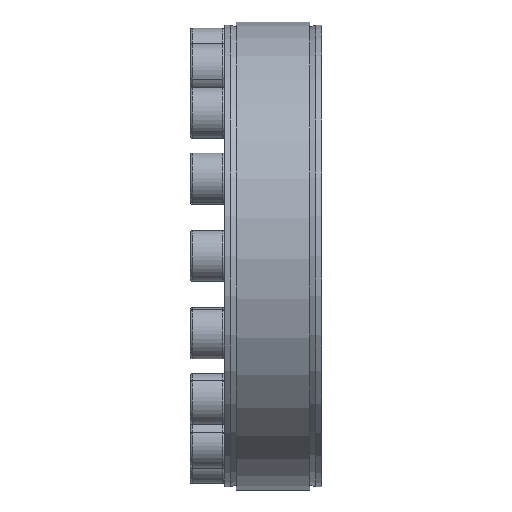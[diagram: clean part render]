
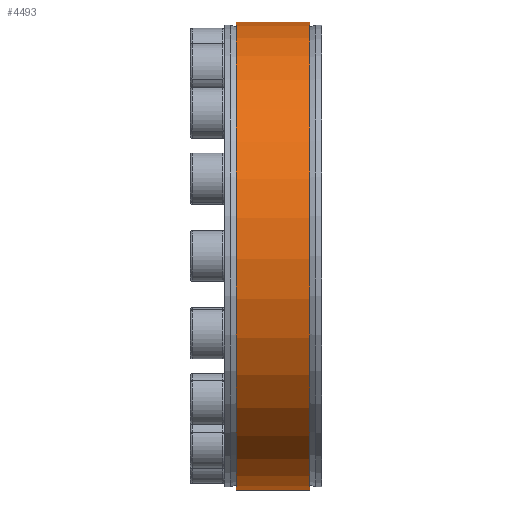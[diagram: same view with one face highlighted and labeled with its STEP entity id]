
A CAD part, front view. The second image highlights one B-rep face of the part: STEP entity #4493.
In plain terms, the highlighted cylindrical face has radius 82.5 mm (diameter 165 mm), a partial arc.
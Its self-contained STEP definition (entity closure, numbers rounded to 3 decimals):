
#137 = CARTESIAN_POINT ( 'NONE',  ( 13., 2., 82.476 ) ) ;
#183 = DIRECTION ( 'NONE',  ( 0., 0., 1. ) ) ;
#649 = CARTESIAN_POINT ( 'NONE',  ( -13., -2., 82.476 ) ) ;
#734 = CIRCLE ( 'NONE', #6979, 82.5 ) ;
#767 = EDGE_CURVE ( 'NONE', #1727, #3262, #734, .T. ) ;
#817 = LINE ( 'NONE', #5753, #10502 ) ;
#1546 = DIRECTION ( 'NONE',  ( -1., 0., 0. ) ) ;
#1727 = VERTEX_POINT ( 'NONE', #137 ) ;
#2048 = LINE ( 'NONE', #2053, #12053 ) ;
#2053 = CARTESIAN_POINT ( 'NONE',  ( -17.103, 2., 82.476 ) ) ;
#2604 = ORIENTED_EDGE ( 'NONE', *, *, #9361, .F. ) ;
#2615 = EDGE_CURVE ( 'NONE', #1727, #3965, #2048, .T. ) ;
#2754 = DIRECTION ( 'NONE',  ( -1., 0., 0. ) ) ;
#3262 = VERTEX_POINT ( 'NONE', #5698 ) ;
#3489 = ORIENTED_EDGE ( 'NONE', *, *, #7989, .F. ) ;
#3965 = VERTEX_POINT ( 'NONE', #7114 ) ;
#4101 = DIRECTION ( 'NONE',  ( -1., 0., 0. ) ) ;
#4185 = AXIS2_PLACEMENT_3D ( 'NONE', #5066, #4101, #183 ) ;
#4493 = ADVANCED_FACE ( 'NONE', ( #6581 ), #7927, .T. ) ;
#4716 = VERTEX_POINT ( 'NONE', #649 ) ;
#4788 = DIRECTION ( 'NONE',  ( -1., 0., 0. ) ) ;
#5066 = CARTESIAN_POINT ( 'NONE',  ( -17.103, 0., 0. ) ) ;
#5106 = AXIS2_PLACEMENT_3D ( 'NONE', #7345, #1546, #8308 ) ;
#5406 = CIRCLE ( 'NONE', #5106, 82.5 ) ;
#5698 = CARTESIAN_POINT ( 'NONE',  ( 13., -2., 82.476 ) ) ;
#5753 = CARTESIAN_POINT ( 'NONE',  ( -17.103, -2., 82.476 ) ) ;
#6581 = FACE_OUTER_BOUND ( 'NONE', #11629, .T. ) ;
#6979 = AXIS2_PLACEMENT_3D ( 'NONE', #10574, #4788, #11561 ) ;
#7114 = CARTESIAN_POINT ( 'NONE',  ( -13., 2., 82.476 ) ) ;
#7345 = CARTESIAN_POINT ( 'NONE',  ( -13., 0., 0. ) ) ;
#7888 = ORIENTED_EDGE ( 'NONE', *, *, #2615, .F. ) ;
#7927 = CYLINDRICAL_SURFACE ( 'NONE', #4185, 82.5 ) ;
#7989 = EDGE_CURVE ( 'NONE', #3965, #4716, #5406, .T. ) ;
#8308 = DIRECTION ( 'NONE',  ( 0., 0., 1. ) ) ;
#8990 = ORIENTED_EDGE ( 'NONE', *, *, #767, .T. ) ;
#9361 = EDGE_CURVE ( 'NONE', #4716, #3262, #817, .T. ) ;
#10502 = VECTOR ( 'NONE', #11546, 1000. ) ;
#10574 = CARTESIAN_POINT ( 'NONE',  ( 13., 0., 0. ) ) ;
#11546 = DIRECTION ( 'NONE',  ( 1., 0., 0. ) ) ;
#11561 = DIRECTION ( 'NONE',  ( 0., 0., 1. ) ) ;
#11629 = EDGE_LOOP ( 'NONE', ( #7888, #8990, #2604, #3489 ) ) ;
#12053 = VECTOR ( 'NONE', #2754, 1000. ) ;
